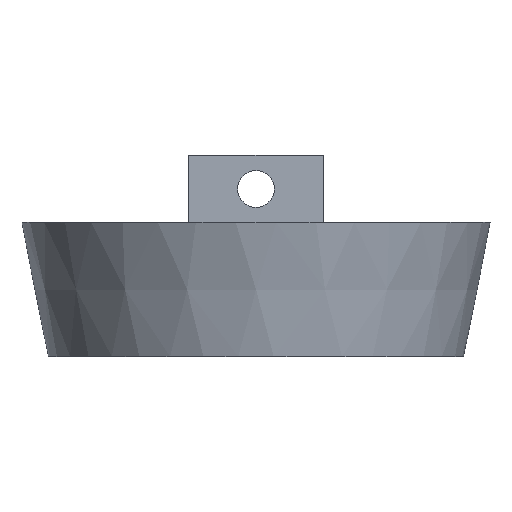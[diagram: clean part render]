
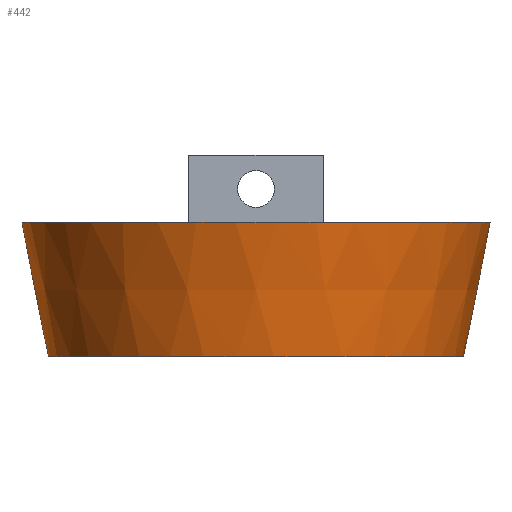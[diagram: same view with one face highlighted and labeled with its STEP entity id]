
A CAD part, front view. The second image highlights one B-rep face of the part: STEP entity #442.
In plain terms, the highlighted conical face has half-angle 11.31 degrees and reference radius 35 mm.
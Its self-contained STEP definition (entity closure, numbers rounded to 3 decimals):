
#15=CONICAL_SURFACE('',#488,35.,0.197);
#17=(
BOUNDED_CURVE()
B_SPLINE_CURVE(2,(#742,#743,#744),.UNSPECIFIED.,.F.,.F.)
B_SPLINE_CURVE_WITH_KNOTS((3,3),(0.,2.044),.UNSPECIFIED.)
CURVE()
GEOMETRIC_REPRESENTATION_ITEM()
RATIONAL_B_SPLINE_CURVE((1.,1.002,1.))
REPRESENTATION_ITEM('')
);
#18=(
BOUNDED_CURVE()
B_SPLINE_CURVE(2,(#750,#751,#752),.UNSPECIFIED.,.F.,.F.)
B_SPLINE_CURVE_WITH_KNOTS((3,3),(0.,2.044),.UNSPECIFIED.)
CURVE()
GEOMETRIC_REPRESENTATION_ITEM()
RATIONAL_B_SPLINE_CURVE((1.,1.002,1.))
REPRESENTATION_ITEM('')
);
#44=CIRCLE('',#483,35.);
#46=CIRCLE('',#489,31.);
#68=FACE_OUTER_BOUND('',#101,.T.);
#101=EDGE_LOOP('',(#390,#391,#392,#393));
#223=VERTEX_POINT('',#733);
#224=VERTEX_POINT('',#735);
#226=VERTEX_POINT('',#741);
#228=VERTEX_POINT('',#749);
#276=EDGE_CURVE('',#224,#223,#44,.T.);
#279=EDGE_CURVE('',#226,#224,#17,.T.);
#282=EDGE_CURVE('',#223,#228,#18,.T.);
#286=EDGE_CURVE('',#228,#226,#46,.T.);
#390=ORIENTED_EDGE('',*,*,#282,.T.);
#391=ORIENTED_EDGE('',*,*,#286,.T.);
#392=ORIENTED_EDGE('',*,*,#279,.T.);
#393=ORIENTED_EDGE('',*,*,#276,.T.);
#442=ADVANCED_FACE('',(#68),#15,.T.);
#483=AXIS2_PLACEMENT_3D('',#736,#579,#580);
#488=AXIS2_PLACEMENT_3D('',#758,#595,#596);
#489=AXIS2_PLACEMENT_3D('',#759,#597,#598);
#579=DIRECTION('center_axis',(0.,0.,-1.));
#580=DIRECTION('ref_axis',(1.,0.,0.));
#595=DIRECTION('center_axis',(0.,0.,1.));
#596=DIRECTION('ref_axis',(0.,-1.,0.));
#597=DIRECTION('center_axis',(0.,0.,1.));
#598=DIRECTION('ref_axis',(1.,0.,0.));
#733=CARTESIAN_POINT('',(-10.,33.541,20.));
#735=CARTESIAN_POINT('',(10.,33.541,20.));
#736=CARTESIAN_POINT('Origin',(0.,0.,20.));
#741=CARTESIAN_POINT('',(10.,29.343,0.));
#742=CARTESIAN_POINT('Ctrl Pts',(10.,29.343,0.));
#743=CARTESIAN_POINT('Ctrl Pts',(10.,31.315,9.332));
#744=CARTESIAN_POINT('Ctrl Pts',(10.,33.541,20.));
#749=CARTESIAN_POINT('',(-10.,29.343,0.));
#750=CARTESIAN_POINT('Ctrl Pts',(-10.,33.541,20.));
#751=CARTESIAN_POINT('Ctrl Pts',(-10.,31.315,9.332));
#752=CARTESIAN_POINT('Ctrl Pts',(-10.,29.343,0.));
#758=CARTESIAN_POINT('Origin',(0.,0.,20.));
#759=CARTESIAN_POINT('Origin',(0.,0.,0.));
